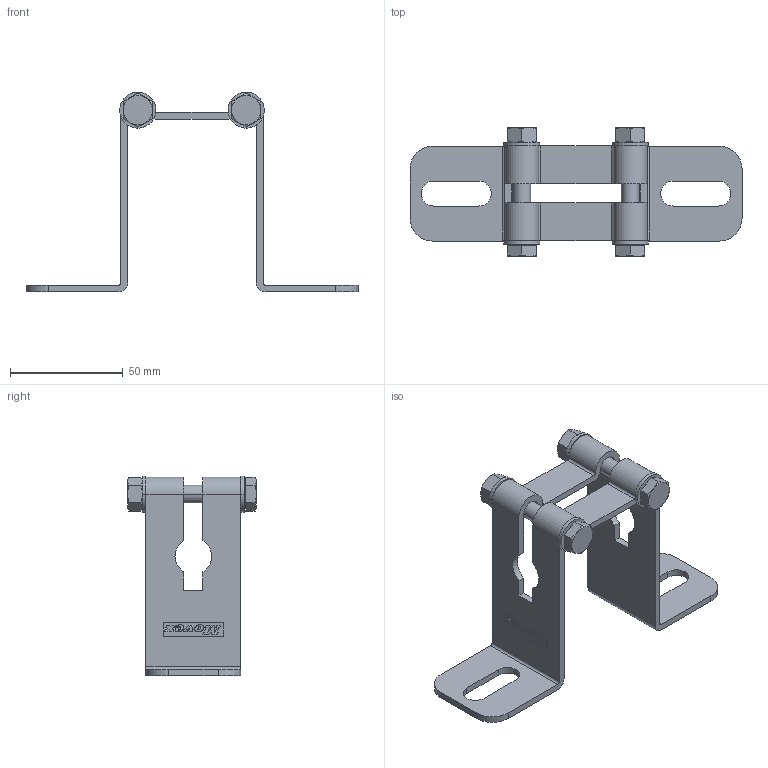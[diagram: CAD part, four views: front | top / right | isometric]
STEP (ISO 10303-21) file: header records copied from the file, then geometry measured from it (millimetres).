
FILE_DESCRIPTION(('CATIA V5 STEP Exchange'),'2;1');
FILE_NAME('X:\CODICI MOVEX\3D per clienti\Jessica Comotti\03-03-2016\P42701_01.stp','2016-04-28T12:22:56+00:00',('none'),('none'),'Version 5-6 Release 2012','CATIA V5 STEP AP203','none');
FILE_SCHEMA(('CONFIG_CONTROL_DESIGN'));
Length unit declared in the file: millimetre
Products named in the file (1): P42701_01
Assembly tree (9 placements, depth 2):
  P42701_01
    #57
    #30700  x2
    #31393  x2
    #31939  x4
Bounding box: 147 x 57 x 88.5 mm (x, y, z)
Volume: 42094.4 mm3; surface area: 32404.9 mm2
Topology: 9 solids, 9 shells, 1048 faces, 3028 edges, 2016 vertices
Faces by surface type: plane 956, cylinder 68, cone 18, torus 6
Entity records: 32158 total; most frequent: CARTESIAN_POINT 5989, ORIENTED_EDGE 5812, DIRECTION 4727, EDGE_CURVE 2906, VECTOR 2765, LINE 2765, VERTEX_POINT 1936, AXIS2_PLACEMENT_3D 1038
